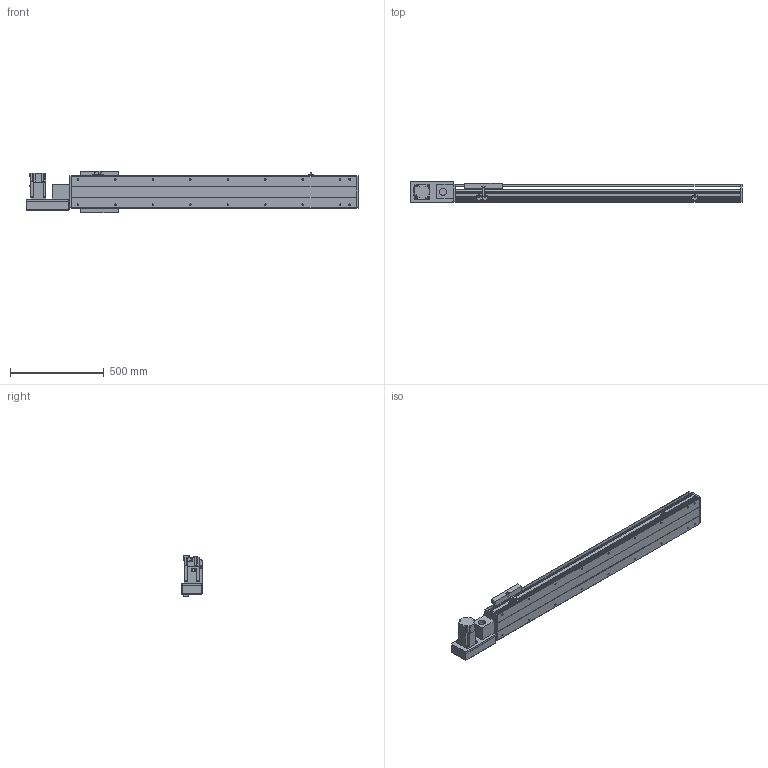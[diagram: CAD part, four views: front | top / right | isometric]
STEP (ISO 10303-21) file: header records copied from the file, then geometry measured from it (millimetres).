
FILE_DESCRIPTION(/* description */ ('STEP AP214'),/* implementation_level */ '2;1');
FILE_NAME(/* name */ 'PBS200-P40-S1150-L-T75-C1-N(0)',/* time_stamp */ '2022-06-11T07:48:52+02:00',/* author */ ('License CC BY-ND 4.0'),/* organization */ ('CADENAS'),/* preprocessor_version */ 'ST-DEVELOPER v18.102',/* originating_system */ 'PARTsolutions',/* authorisation */ ' ');
FILE_SCHEMA (('AUTOMOTIVE_DESIGN {1 0 10303 214 3 1 1}'));
Length unit declared in the file: millimetre
Products named in the file (7): PBS200-P40-S1150-L-T75-C1-N(0); PBS200_sensor; PBS200_plant; PBS200_sliser; T75-p1; PBS200T-L_motors; PBS200-S1150()_body
Assembly tree (8 placements, depth 2):
  PBS200-P40-S1150-L-T75-C1-N(0)
    PBS200_sensor  x3
    PBS200_plant
    PBS200_sliser
    T75-p1
    PBS200T-L_motors
    PBS200-S1150()_body
Bounding box: 1772 x 109 x 221 mm (x, y, z)
Volume: 12173541.8 mm3; surface area: 1967465.3 mm2
Topology: 8 solids, 8 shells, 926 faces, 2384 edges, 1554 vertices
Faces by surface type: plane 576, cylinder 300, cone 50
Full cylindrical faces by diameter (mm): 2.459 x6, 3.242 x4, 4.5 x6, 4.917 x4, 5 x6, 6 x7, 6.6 x8, 6.647 x22, 8 x6, 10 x4, 12 x8, 38 x2, 40 x1, 70 x1
Entity records: 24701 total; most frequent: DIRECTION 4351, CARTESIAN_POINT 4210, ORIENTED_EDGE 3994, EDGE_CURVE 1997, AXIS2_PLACEMENT_3D 1519, VERTEX_POINT 1378, LINE 1313, VECTOR 1313
